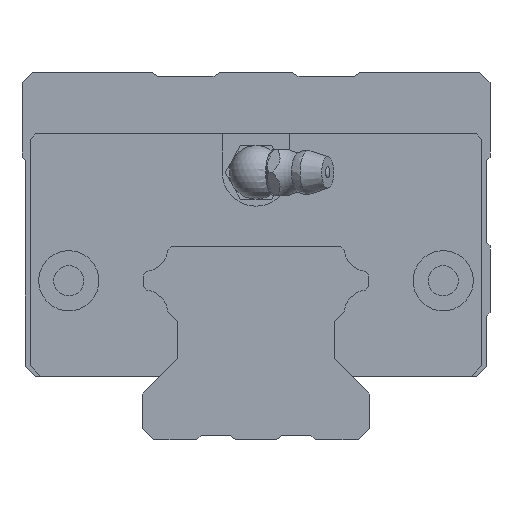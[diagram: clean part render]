
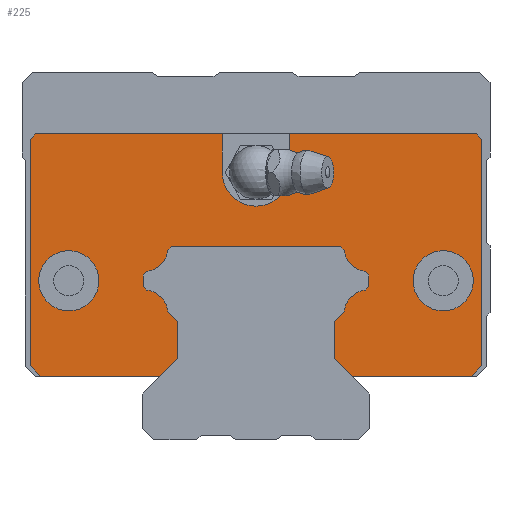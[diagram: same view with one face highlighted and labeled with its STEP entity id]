
A CAD part, front view. The second image highlights one B-rep face of the part: STEP entity #225.
In plain terms, the highlighted planar face has unit normal (0, -1, 0).
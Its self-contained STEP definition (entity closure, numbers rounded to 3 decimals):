
#225=ADVANCED_FACE('',(#1336,#1337,#553),#406,.F.);
#406=PLANE('',#3472);
#553=FACE_OUTER_BOUND('',#1454,.T.);
#703=LINE('',#4694,#1035);
#709=LINE('',#4706,#1041);
#712=LINE('',#4712,#1044);
#715=LINE('',#4718,#1047);
#719=LINE('',#4730,#1051);
#722=LINE('',#4736,#1054);
#725=LINE('',#4742,#1057);
#729=LINE('',#4754,#1061);
#732=LINE('',#4760,#1064);
#735=LINE('',#4766,#1067);
#739=LINE('',#4778,#1071);
#742=LINE('',#4784,#1074);
#745=LINE('',#4790,#1077);
#749=LINE('',#4802,#1081);
#752=LINE('',#4808,#1084);
#755=LINE('',#4814,#1087);
#759=LINE('',#4822,#1091);
#815=LINE('',#4937,#1147);
#818=LINE('',#4942,#1150);
#821=LINE('',#4952,#1153);
#822=LINE('',#4956,#1154);
#823=LINE('',#4957,#1155);
#824=LINE('',#4959,#1156);
#825=LINE('',#4961,#1157);
#826=LINE('',#4962,#1158);
#827=LINE('',#4964,#1159);
#828=LINE('',#4966,#1160);
#1035=VECTOR('',#3762,1.);
#1041=VECTOR('',#3770,1.);
#1044=VECTOR('',#3775,1.);
#1047=VECTOR('',#3780,1.);
#1051=VECTOR('',#3792,1.);
#1054=VECTOR('',#3797,1.);
#1057=VECTOR('',#3802,1.);
#1061=VECTOR('',#3814,1.);
#1064=VECTOR('',#3819,1.);
#1067=VECTOR('',#3824,1.);
#1071=VECTOR('',#3836,1.);
#1074=VECTOR('',#3841,1.);
#1077=VECTOR('',#3846,1.);
#1081=VECTOR('',#3858,1.);
#1084=VECTOR('',#3863,1.);
#1087=VECTOR('',#3868,1.);
#1091=VECTOR('',#3874,1.);
#1147=VECTOR('',#3966,1.);
#1150=VECTOR('',#3969,1.);
#1153=VECTOR('',#3978,1.);
#1154=VECTOR('',#3981,1.);
#1155=VECTOR('',#3982,1.);
#1156=VECTOR('',#3983,1.);
#1157=VECTOR('',#3984,1.);
#1158=VECTOR('',#3985,1.);
#1159=VECTOR('',#3986,1.);
#1160=VECTOR('',#3987,1.);
#1336=FACE_BOUND('',#1452,.T.);
#1337=FACE_BOUND('',#1453,.T.);
#1452=EDGE_LOOP('',(#1892));
#1453=EDGE_LOOP('',(#1893));
#1454=EDGE_LOOP('',(#1894,#1895,#1896,#1897,#1898,#1899,#1900,#1901,#1902,
#1903,#1904,#1905,#1906,#1907,#1908,#1909,#1910,#1911,#1912,#1913,#1914,
#1915,#1916,#1917,#1918,#1919,#1920,#1921,#1922,#1923,#1924,#1925));
#1892=ORIENTED_EDGE('',*,*,#3027,.F.);
#1893=ORIENTED_EDGE('',*,*,#3028,.F.);
#1894=ORIENTED_EDGE('',*,*,#3029,.F.);
#1895=ORIENTED_EDGE('',*,*,#3030,.F.);
#1896=ORIENTED_EDGE('',*,*,#3031,.T.);
#1897=ORIENTED_EDGE('',*,*,#3024,.F.);
#1898=ORIENTED_EDGE('',*,*,#3032,.F.);
#1899=ORIENTED_EDGE('',*,*,#3033,.F.);
#1900=ORIENTED_EDGE('',*,*,#3034,.T.);
#1901=ORIENTED_EDGE('',*,*,#2963,.T.);
#1902=ORIENTED_EDGE('',*,*,#2959,.T.);
#1903=ORIENTED_EDGE('',*,*,#2956,.F.);
#1904=ORIENTED_EDGE('',*,*,#2953,.F.);
#1905=ORIENTED_EDGE('',*,*,#2950,.T.);
#1906=ORIENTED_EDGE('',*,*,#2947,.F.);
#1907=ORIENTED_EDGE('',*,*,#2944,.F.);
#1908=ORIENTED_EDGE('',*,*,#2941,.T.);
#1909=ORIENTED_EDGE('',*,*,#2938,.T.);
#1910=ORIENTED_EDGE('',*,*,#2935,.T.);
#1911=ORIENTED_EDGE('',*,*,#2932,.T.);
#1912=ORIENTED_EDGE('',*,*,#2929,.F.);
#1913=ORIENTED_EDGE('',*,*,#2926,.T.);
#1914=ORIENTED_EDGE('',*,*,#2923,.F.);
#1915=ORIENTED_EDGE('',*,*,#2920,.T.);
#1916=ORIENTED_EDGE('',*,*,#2917,.T.);
#1917=ORIENTED_EDGE('',*,*,#2914,.T.);
#1918=ORIENTED_EDGE('',*,*,#2911,.T.);
#1919=ORIENTED_EDGE('',*,*,#2908,.T.);
#1920=ORIENTED_EDGE('',*,*,#2905,.F.);
#1921=ORIENTED_EDGE('',*,*,#2899,.F.);
#1922=ORIENTED_EDGE('',*,*,#3035,.T.);
#1923=ORIENTED_EDGE('',*,*,#3036,.F.);
#1924=ORIENTED_EDGE('',*,*,#3037,.F.);
#1925=ORIENTED_EDGE('',*,*,#3021,.F.);
#2574=VERTEX_POINT('',#4693);
#2575=VERTEX_POINT('',#4695);
#2578=VERTEX_POINT('',#4703);
#2580=VERTEX_POINT('',#4709);
#2582=VERTEX_POINT('',#4715);
#2584=VERTEX_POINT('',#4721);
#2586=VERTEX_POINT('',#4727);
#2588=VERTEX_POINT('',#4733);
#2590=VERTEX_POINT('',#4739);
#2592=VERTEX_POINT('',#4745);
#2594=VERTEX_POINT('',#4751);
#2596=VERTEX_POINT('',#4757);
#2598=VERTEX_POINT('',#4763);
#2600=VERTEX_POINT('',#4769);
#2602=VERTEX_POINT('',#4775);
#2604=VERTEX_POINT('',#4781);
#2606=VERTEX_POINT('',#4787);
#2608=VERTEX_POINT('',#4793);
#2610=VERTEX_POINT('',#4799);
#2612=VERTEX_POINT('',#4805);
#2614=VERTEX_POINT('',#4811);
#2619=VERTEX_POINT('',#4823);
#2659=VERTEX_POINT('',#4936);
#2660=VERTEX_POINT('',#4938);
#2661=VERTEX_POINT('',#4941);
#2662=VERTEX_POINT('',#4943);
#2664=VERTEX_POINT('',#4949);
#2665=VERTEX_POINT('',#4951);
#2666=VERTEX_POINT('',#4953);
#2667=VERTEX_POINT('',#4955);
#2668=VERTEX_POINT('',#4958);
#2669=VERTEX_POINT('',#4960);
#2670=VERTEX_POINT('',#4963);
#2671=VERTEX_POINT('',#4965);
#2899=EDGE_CURVE('',#2574,#2575,#703,.T.);
#2905=EDGE_CURVE('',#2575,#2578,#709,.T.);
#2908=EDGE_CURVE('',#2580,#2578,#712,.T.);
#2911=EDGE_CURVE('',#2582,#2580,#715,.T.);
#2914=EDGE_CURVE('',#2584,#2582,#3322,.T.);
#2917=EDGE_CURVE('',#2586,#2584,#719,.T.);
#2920=EDGE_CURVE('',#2588,#2586,#722,.T.);
#2923=EDGE_CURVE('',#2588,#2590,#725,.T.);
#2926=EDGE_CURVE('',#2592,#2590,#3324,.T.);
#2929=EDGE_CURVE('',#2592,#2594,#729,.T.);
#2932=EDGE_CURVE('',#2596,#2594,#732,.T.);
#2935=EDGE_CURVE('',#2598,#2596,#735,.T.);
#2938=EDGE_CURVE('',#2600,#2598,#3326,.T.);
#2941=EDGE_CURVE('',#2602,#2600,#739,.T.);
#2944=EDGE_CURVE('',#2602,#2604,#742,.T.);
#2947=EDGE_CURVE('',#2604,#2606,#745,.T.);
#2950=EDGE_CURVE('',#2608,#2606,#3328,.T.);
#2953=EDGE_CURVE('',#2608,#2610,#749,.T.);
#2956=EDGE_CURVE('',#2610,#2612,#752,.T.);
#2959=EDGE_CURVE('',#2614,#2612,#755,.T.);
#2963=EDGE_CURVE('',#2619,#2614,#759,.T.);
#3021=EDGE_CURVE('',#2659,#2660,#815,.T.);
#3024=EDGE_CURVE('',#2661,#2662,#818,.T.);
#3027=EDGE_CURVE('',#2664,#2664,#3331,.T.);
#3028=EDGE_CURVE('',#2665,#2665,#3332,.T.);
#3029=EDGE_CURVE('',#2666,#2659,#821,.T.);
#3030=EDGE_CURVE('',#2667,#2666,#3333,.T.);
#3031=EDGE_CURVE('',#2667,#2662,#822,.T.);
#3032=EDGE_CURVE('',#2668,#2661,#823,.T.);
#3033=EDGE_CURVE('',#2669,#2668,#824,.T.);
#3034=EDGE_CURVE('',#2669,#2619,#825,.T.);
#3035=EDGE_CURVE('',#2574,#2670,#826,.T.);
#3036=EDGE_CURVE('',#2671,#2670,#827,.T.);
#3037=EDGE_CURVE('',#2660,#2671,#828,.T.);
#3322=CIRCLE('',#3427,3.5);
#3324=CIRCLE('',#3433,3.5);
#3326=CIRCLE('',#3439,3.5);
#3328=CIRCLE('',#3445,3.5);
#3331=CIRCLE('',#3469,4.5);
#3332=CIRCLE('',#3470,4.5);
#3333=CIRCLE('',#3471,5.05);
#3427=AXIS2_PLACEMENT_3D('',#4724,#3786,#3787);
#3433=AXIS2_PLACEMENT_3D('',#4748,#3808,#3809);
#3439=AXIS2_PLACEMENT_3D('',#4772,#3830,#3831);
#3445=AXIS2_PLACEMENT_3D('',#4796,#3852,#3853);
#3469=AXIS2_PLACEMENT_3D('',#4948,#3974,#3975);
#3470=AXIS2_PLACEMENT_3D('',#4950,#3976,#3977);
#3471=AXIS2_PLACEMENT_3D('',#4954,#3979,#3980);
#3472=AXIS2_PLACEMENT_3D('',#4967,#3988,#3989);
#3762=DIRECTION('',(-1.,0.,0.));
#3770=DIRECTION('',(-0.707,0.,0.707));
#3775=DIRECTION('',(0.,0.,-1.));
#3780=DIRECTION('',(-0.707,0.,-0.707));
#3786=DIRECTION('',(0.,-1.,0.));
#3787=DIRECTION('',(1.,0.,0.));
#3792=DIRECTION('',(-0.707,0.,-0.707));
#3797=DIRECTION('',(0.,0.,-1.));
#3802=DIRECTION('',(-0.707,0.,0.707));
#3808=DIRECTION('',(0.,-1.,0.));
#3809=DIRECTION('',(1.,0.,0.));
#3814=DIRECTION('',(-0.707,0.,0.707));
#3819=DIRECTION('',(1.,0.,0.));
#3824=DIRECTION('',(0.707,0.,0.707));
#3830=DIRECTION('',(0.,-1.,0.));
#3831=DIRECTION('',(1.,0.,0.));
#3836=DIRECTION('',(0.707,0.,0.707));
#3841=DIRECTION('',(0.,0.,-1.));
#3846=DIRECTION('',(0.707,0.,-0.707));
#3852=DIRECTION('',(0.,-1.,0.));
#3853=DIRECTION('',(1.,0.,0.));
#3858=DIRECTION('',(0.707,0.,-0.707));
#3863=DIRECTION('',(0.,0.,-1.));
#3868=DIRECTION('',(0.707,0.,0.707));
#3874=DIRECTION('',(1.,0.,0.));
#3966=DIRECTION('',(1.,0.,0.));
#3969=DIRECTION('',(1.,0.,0.));
#3974=DIRECTION('',(0.,-1.,0.));
#3975=DIRECTION('',(0.,0.,-1.));
#3976=DIRECTION('',(0.,-1.,0.));
#3977=DIRECTION('',(0.,0.,-1.));
#3978=DIRECTION('',(0.,0.,1.));
#3979=DIRECTION('',(0.,-1.,0.));
#3980=DIRECTION('',(1.,0.,0.));
#3981=DIRECTION('',(0.,0.,1.));
#3982=DIRECTION('',(0.707,0.,0.707));
#3983=DIRECTION('',(0.,0.,1.));
#3984=DIRECTION('',(0.707,0.,-0.707));
#3985=DIRECTION('',(0.707,0.,0.707));
#3986=DIRECTION('',(0.,0.,-1.));
#3987=DIRECTION('',(0.707,0.,-0.707));
#3988=DIRECTION('',(0.,1.,0.));
#3989=DIRECTION('',(0.,0.,1.));
#4693=CARTESIAN_POINT('',(32.217,-86.4,-40.5));
#4694=CARTESIAN_POINT('',(32.217,-86.4,-40.5));
#4695=CARTESIAN_POINT('',(14.359,-86.4,-40.5));
#4703=CARTESIAN_POINT('',(11.7,-86.4,-37.841));
#4706=CARTESIAN_POINT('',(14.359,-86.4,-40.5));
#4709=CARTESIAN_POINT('',(11.7,-86.4,-32.259));
#4712=CARTESIAN_POINT('',(11.7,-86.4,-32.259));
#4715=CARTESIAN_POINT('',(13.204,-86.4,-30.754));
#4718=CARTESIAN_POINT('',(13.204,-86.4,-30.754));
#4721=CARTESIAN_POINT('',(16.354,-86.4,-27.604));
#4724=CARTESIAN_POINT('',(16.688,-86.4,-31.088));
#4727=CARTESIAN_POINT('',(16.9,-86.4,-27.059));
#4730=CARTESIAN_POINT('',(16.9,-86.4,-27.059));
#4733=CARTESIAN_POINT('',(16.9,-86.4,-25.341));
#4736=CARTESIAN_POINT('',(16.9,-86.4,-25.341));
#4739=CARTESIAN_POINT('',(16.354,-86.4,-24.796));
#4742=CARTESIAN_POINT('',(16.9,-86.4,-25.341));
#4745=CARTESIAN_POINT('',(13.204,-86.4,-21.646));
#4748=CARTESIAN_POINT('',(16.688,-86.4,-21.312));
#4751=CARTESIAN_POINT('',(12.659,-86.4,-21.1));
#4754=CARTESIAN_POINT('',(13.204,-86.4,-21.646));
#4757=CARTESIAN_POINT('',(-12.659,-86.4,-21.1));
#4760=CARTESIAN_POINT('',(-12.659,-86.4,-21.1));
#4763=CARTESIAN_POINT('',(-13.204,-86.4,-21.646));
#4766=CARTESIAN_POINT('',(-13.204,-86.4,-21.646));
#4769=CARTESIAN_POINT('',(-16.354,-86.4,-24.796));
#4772=CARTESIAN_POINT('',(-16.688,-86.4,-21.312));
#4775=CARTESIAN_POINT('',(-16.9,-86.4,-25.341));
#4778=CARTESIAN_POINT('',(-16.9,-86.4,-25.341));
#4781=CARTESIAN_POINT('',(-16.9,-86.4,-27.059));
#4784=CARTESIAN_POINT('',(-16.9,-86.4,-25.341));
#4787=CARTESIAN_POINT('',(-16.354,-86.4,-27.604));
#4790=CARTESIAN_POINT('',(-16.9,-86.4,-27.059));
#4793=CARTESIAN_POINT('',(-13.204,-86.4,-30.754));
#4796=CARTESIAN_POINT('',(-16.688,-86.4,-31.088));
#4799=CARTESIAN_POINT('',(-11.7,-86.4,-32.259));
#4802=CARTESIAN_POINT('',(-13.204,-86.4,-30.754));
#4805=CARTESIAN_POINT('',(-11.7,-86.4,-37.841));
#4808=CARTESIAN_POINT('',(-11.7,-86.4,-32.259));
#4811=CARTESIAN_POINT('',(-14.359,-86.4,-40.5));
#4814=CARTESIAN_POINT('',(-14.359,-86.4,-40.5));
#4822=CARTESIAN_POINT('',(-32.218,-86.4,-40.5));
#4823=CARTESIAN_POINT('',(-32.218,-86.4,-40.5));
#4936=CARTESIAN_POINT('',(5.05,-86.4,-4.2));
#4937=CARTESIAN_POINT('',(-32.917,-86.4,-4.2));
#4938=CARTESIAN_POINT('',(32.917,-86.4,-4.2));
#4941=CARTESIAN_POINT('',(-32.917,-86.4,-4.2));
#4942=CARTESIAN_POINT('',(-32.917,-86.4,-4.2));
#4943=CARTESIAN_POINT('',(-5.05,-86.4,-4.2));
#4948=CARTESIAN_POINT('',(-28.,-86.4,-26.2));
#4949=CARTESIAN_POINT('',(-28.,-86.4,-30.7));
#4950=CARTESIAN_POINT('',(28.,-86.4,-26.2));
#4951=CARTESIAN_POINT('',(28.,-86.4,-30.7));
#4952=CARTESIAN_POINT('',(5.05,-86.4,-10.));
#4953=CARTESIAN_POINT('',(5.05,-86.4,-10.));
#4954=CARTESIAN_POINT('',(0.,-86.4,-10.));
#4955=CARTESIAN_POINT('',(-5.05,-86.4,-10.));
#4956=CARTESIAN_POINT('',(-5.05,-86.4,-10.));
#4957=CARTESIAN_POINT('',(-33.8,-86.4,-5.083));
#4958=CARTESIAN_POINT('',(-33.8,-86.4,-5.083));
#4959=CARTESIAN_POINT('',(-33.8,-86.4,-38.918));
#4960=CARTESIAN_POINT('',(-33.8,-86.4,-38.918));
#4961=CARTESIAN_POINT('',(-33.8,-86.4,-38.918));
#4962=CARTESIAN_POINT('',(32.217,-86.4,-40.5));
#4963=CARTESIAN_POINT('',(33.8,-86.4,-38.917));
#4964=CARTESIAN_POINT('',(33.8,-86.4,-5.083));
#4965=CARTESIAN_POINT('',(33.8,-86.4,-5.083));
#4966=CARTESIAN_POINT('',(32.917,-86.4,-4.2));
#4967=CARTESIAN_POINT('',(16.688,-86.4,-31.088));
